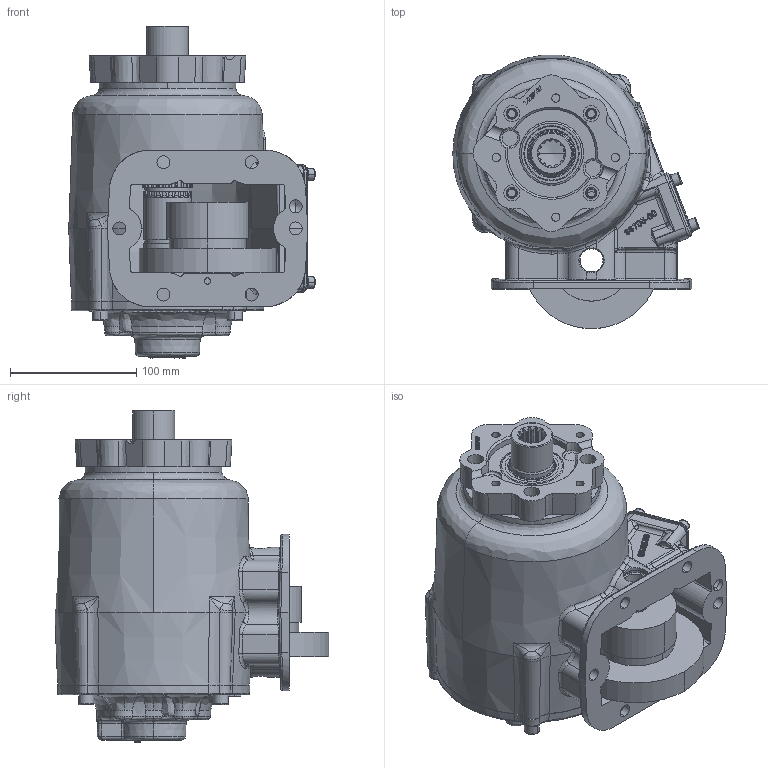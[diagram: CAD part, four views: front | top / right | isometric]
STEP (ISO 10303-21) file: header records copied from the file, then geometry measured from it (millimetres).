
FILE_DESCRIPTION (( 'STEP AP203' ), '1' );
FILE_NAME ('CS6S-XXXXX-X3GX.STEP', '2011-11-29T19:56:06', ( 'User' ), ( 'Muncie Power Products, Inc.' ), 'SwSTEP 2.0', 'SolidWorks 2011', '' );
FILE_SCHEMA (( 'CONFIG_CONTROL_DESIGN' ));
Length unit declared in the file: inch
Products named in the file (3): CS6S-XXXXX-X3GX; 14T39137
Assembly tree (2 placements, depth 2):
  CS6S-XXXXX-X3GX
    14T39137
    CS6S-XXXXX-X3GX
Bounding box: 195.33 x 216.75 x 263.11 mm (x, y, z)
Volume: 1685004.9 mm3; surface area: 431139.9 mm2
Topology: 15 solids, 15 shells, 2512 faces, 6447 edges, 4044 vertices
Faces by surface type: bspline 944, plane 638, cylinder 564, cone 273, torus 80, sphere 13
Entity records: 175396 total; most frequent: CARTESIAN_POINT 121706, ORIENTED_EDGE 12770, DIRECTION 8233, EDGE_CURVE 6385, VERTEX_POINT 4044, AXIS2_PLACEMENT_3D 2973, EDGE_LOOP 2745, B_SPLINE_CURVE_WITH_KNOTS 2599
